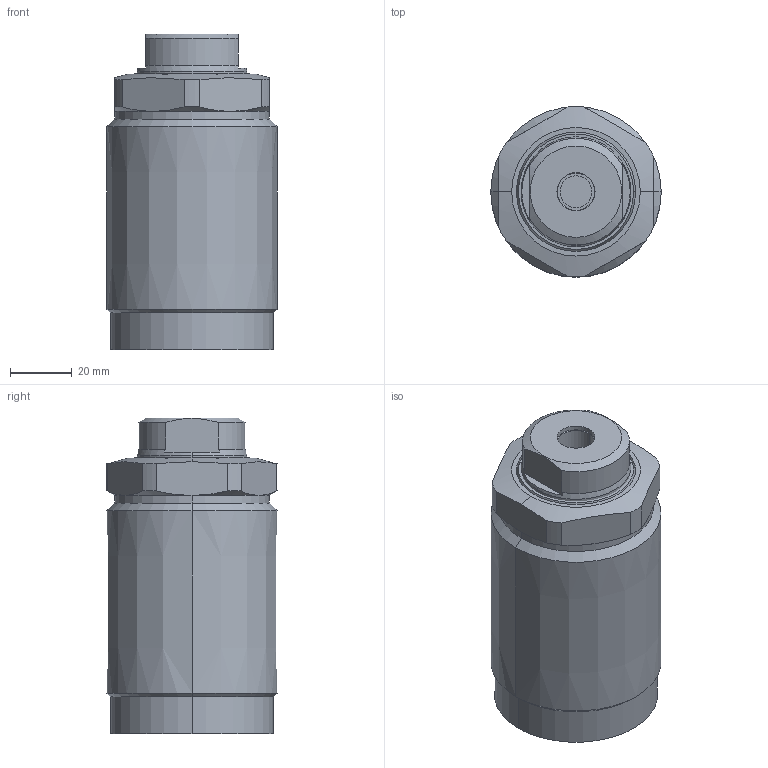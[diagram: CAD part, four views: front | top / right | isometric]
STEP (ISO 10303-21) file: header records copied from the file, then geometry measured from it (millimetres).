
FILE_DESCRIPTION((' '),'2;1');
FILE_NAME( 'TGP55-AL.x_t.stp', '2025-02-10T16:03:57', (' '), ('--- Datakit www.datakit.com---'), ' Datakit CrossCadWare V2024.1 Dec 21 2023', 'Mastercam 2025', ' ');
FILE_SCHEMA(('AUTOMOTIVE_DESIGN { 1 0 10303 214 1 1 1 1 }'));
Length unit declared in the file: millimetre
Products named in the file (1): TGP55-AL
Bounding box: 55 x 55 x 102 mm (x, y, z)
Volume: 242238.3 mm3; surface area: 28349.9 mm2
Topology: 2 solids, 2 shells, 81 faces, 186 edges, 115 vertices
Faces by surface type: cylinder 32, cone 24, plane 21, torus 4
Entity records: 2436 total; most frequent: CARTESIAN_POINT 561, DIRECTION 416, ORIENTED_EDGE 368, EDGE_CURVE 184, AXIS2_PLACEMENT_3D 178, VERTEX_POINT 115, CIRCLE 96, EDGE_LOOP 89
